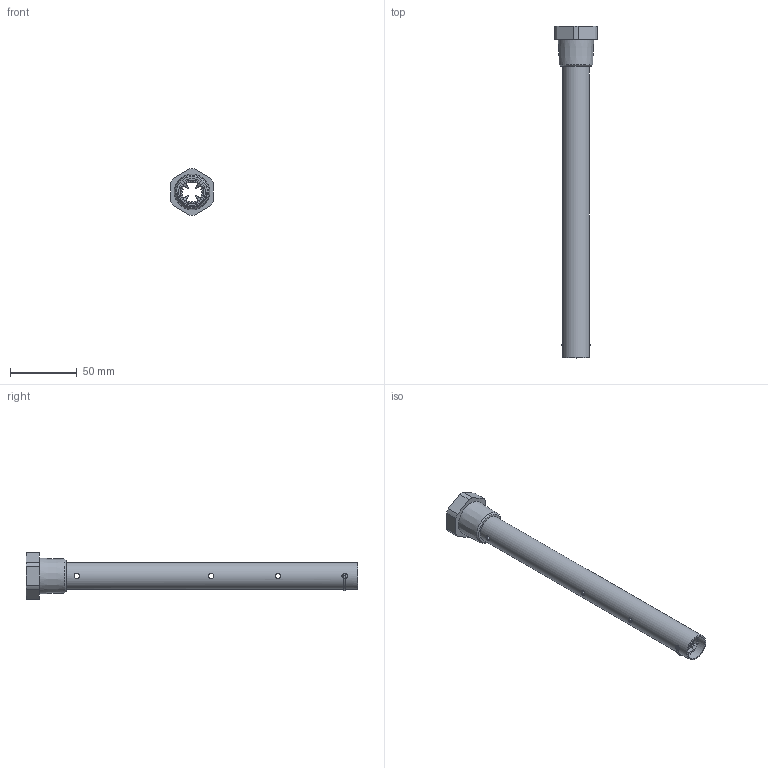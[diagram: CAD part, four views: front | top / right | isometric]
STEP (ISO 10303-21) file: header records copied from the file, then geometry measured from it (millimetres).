
FILE_DESCRIPTION( ( 'STEP AP203' ), ' ' );
FILE_NAME( 'p:/temp/worker_987/7692_1012/app_58_02018041611495910924613192d056f_000000_00_00_000000/format_6/E43377.stp', '2018-04-16T09:50:02', ( '' ), ( '' ), ' ', 'PARTsolutions', ' ' );
FILE_SCHEMA( ( 'CONFIG_CONTROL_DESIGN' ) );
Length unit declared in the file: millimetre
Products named in the file (1): _E43377
Bounding box: 32 x 249 x 34.98 mm (x, y, z)
Volume: 23647.6 mm3; surface area: 33019.6 mm2
Topology: 1 solids, 1 shells, 99 faces, 282 edges, 179 vertices
Faces by surface type: cylinder 57, plane 32, cone 6, torus 4
Full cylindrical faces by diameter (mm): 1 x2, 4 x8, 16.5 x1, 18 x1, 20 x1, 24.117 x1
Entity records: 4120 total; most frequent: CARTESIAN_POINT 1690, ORIENTED_EDGE 488, DIRECTION 462, EDGE_CURVE 244, AXIS2_PLACEMENT_3D 184, VERTEX_POINT 168, EDGE_LOOP 148, FACE_OUTER_BOUND 116
